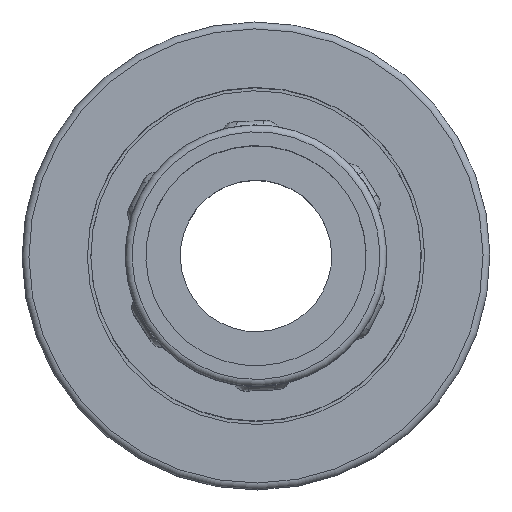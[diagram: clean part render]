
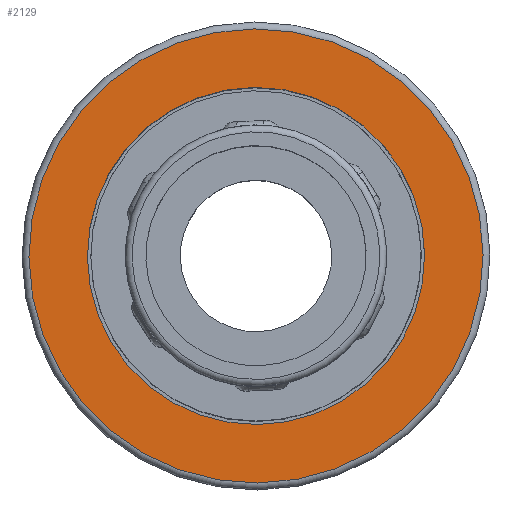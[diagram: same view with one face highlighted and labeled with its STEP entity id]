
A CAD part, top view. The second image highlights one B-rep face of the part: STEP entity #2129.
In plain terms, the highlighted planar face has unit normal (0, 0, 1).
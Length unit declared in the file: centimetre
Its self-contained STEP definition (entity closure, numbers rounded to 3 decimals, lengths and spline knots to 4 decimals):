
#385=FACE_BOUND('',#542,.T.);
#411=FACE_OUTER_BOUND('',#541,.T.);
#541=EDGE_LOOP('',(#1349));
#542=EDGE_LOOP('',(#1350));
#693=CIRCLE('',#2261,1.65);
#695=CIRCLE('',#2264,1.225);
#837=VERTEX_POINT('',#3112);
#839=VERTEX_POINT('',#3117);
#1041=EDGE_CURVE('',#837,#837,#693,.T.);
#1043=EDGE_CURVE('',#839,#839,#695,.T.);
#1349=ORIENTED_EDGE('',*,*,#1041,.F.);
#1350=ORIENTED_EDGE('',*,*,#1043,.T.);
#1958=PLANE('',#2263);
#2129=ADVANCED_FACE('',(#411,#385),#1958,.T.);
#2261=AXIS2_PLACEMENT_3D('',#3113,#2509,#2510);
#2263=AXIS2_PLACEMENT_3D('',#3116,#2513,#2514);
#2264=AXIS2_PLACEMENT_3D('',#3118,#2515,#2516);
#2509=DIRECTION('center_axis',(0.,0.,
-1.));
#2510=DIRECTION('ref_axis',(0.87,-0.493,0.));
#2513=DIRECTION('center_axis',(0.,0.,
1.));
#2514=DIRECTION('ref_axis',(-0.493,-0.87,0.));
#2515=DIRECTION('center_axis',(0.,0.,
-1.));
#2516=DIRECTION('ref_axis',(0.87,-0.493,0.));
#3112=CARTESIAN_POINT('',(-1.4351,0.8142,1.19));
#3113=CARTESIAN_POINT('Origin',(0.,0.,
1.19));
#3116=CARTESIAN_POINT('Origin',(-1.4786,0.8389,1.19));
#3117=CARTESIAN_POINT('',(-1.0655,0.6045,1.19));
#3118=CARTESIAN_POINT('Origin',(0.,0.,
1.19));
